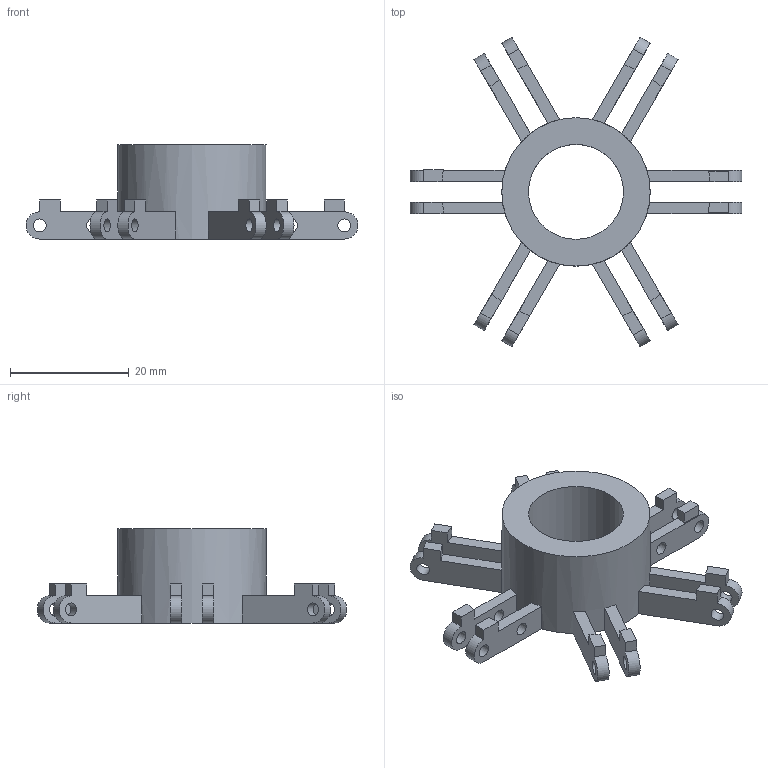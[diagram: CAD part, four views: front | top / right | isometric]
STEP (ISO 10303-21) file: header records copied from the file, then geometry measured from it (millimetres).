
FILE_DESCRIPTION(/* description */ (''),/* implementation_level */ '2;1');
FILE_NAME(/* name */ 'Stationary Fixing.step',/* time_stamp */ '2026-07-17T11:57:26+01:00',/* author */ (''),/* organization */ (''),/* preprocessor_version */ 'ST-DEVELOPER v20.1',/* originating_system */ 'Autodesk Translation Framework v15.8.0.0',/* authorisation */ '');
FILE_SCHEMA (('AUTOMOTIVE_DESIGN { 1 0 10303 214 3 1 1 }'));
Length unit declared in the file: millimetre
Products named in the file (1): Stationary Fixing
Bounding box: 55.93 x 52.14 x 15.87 mm (x, y, z)
Volume: 6317.9 mm3; surface area: 5371.4 mm2
Topology: 1 solids, 1 shells, 118 faces, 310 edges, 206 vertices
Faces by surface type: plane 76, cylinder 42
Full cylindrical faces by diameter (mm): 2.2 x16, 16 x1, 25 x1
Entity records: 3774 total; most frequent: DIRECTION 656, CARTESIAN_POINT 635, ORIENTED_EDGE 620, EDGE_CURVE 310, AXIS2_PLACEMENT_3D 227, VERTEX_POINT 206, LINE 202, VECTOR 202
